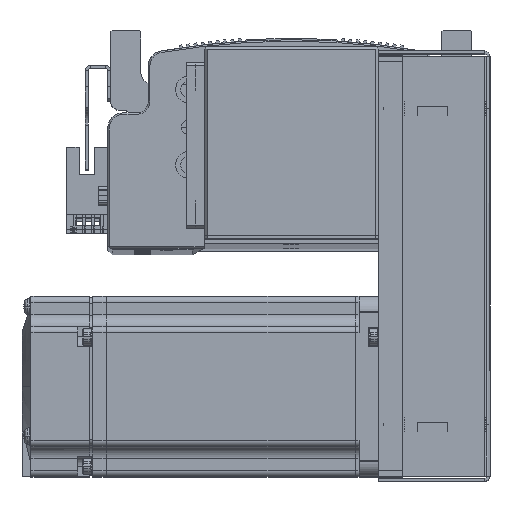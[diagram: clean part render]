
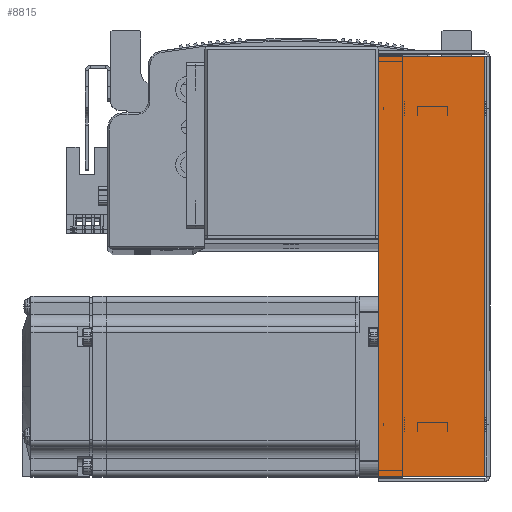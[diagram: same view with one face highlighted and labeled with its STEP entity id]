
A CAD part, top view. The second image highlights one B-rep face of the part: STEP entity #8815.
In plain terms, the highlighted planar face has unit normal (0, 0, 1).
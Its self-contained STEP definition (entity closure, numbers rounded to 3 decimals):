
#8815 = ADVANCED_FACE ( 'NONE', ( #68147 ), #87129, .F. ) ;
#11126 = EDGE_CURVE ( 'NONE', #35728, #35714, #21386, .T. ) ;
#11187 = EDGE_CURVE ( 'NONE', #35678, #35758, #21542, .T. ) ;
#11204 = EDGE_CURVE ( 'NONE', #35678, #35728, #21448, .T. ) ;
#11206 = EDGE_CURVE ( 'NONE', #35758, #35714, #21626, .T. ) ;
#18026 = ORIENTED_EDGE ( 'NONE', *, *, #11126, .F. ) ;
#18031 = ORIENTED_EDGE ( 'NONE', *, *, #11206, .T. ) ;
#18040 = ORIENTED_EDGE ( 'NONE', *, *, #11187, .T. ) ;
#18056 = ORIENTED_EDGE ( 'NONE', *, *, #11204, .F. ) ;
#21306 = VECTOR ( 'NONE', #80266, 1000. ) ;
#21386 = LINE ( 'NONE', #80246, #21306 ) ;
#21448 = LINE ( 'NONE', #80375, #21701 ) ;
#21542 = LINE ( 'NONE', #80344, #21545 ) ;
#21545 = VECTOR ( 'NONE', #80339, 1000. ) ;
#21626 = LINE ( 'NONE', #80371, #21686 ) ;
#21686 = VECTOR ( 'NONE', #80357, 1000. ) ;
#21701 = VECTOR ( 'NONE', #80364, 1000. ) ;
#35678 = VERTEX_POINT ( 'NONE', #90754 ) ;
#35714 = VERTEX_POINT ( 'NONE', #90814 ) ;
#35728 = VERTEX_POINT ( 'NONE', #90843 ) ;
#35758 = VERTEX_POINT ( 'NONE', #90876 ) ;
#56712 = AXIS2_PLACEMENT_3D ( 'NONE', #87100, #87158, #87135 ) ;
#68147 = FACE_OUTER_BOUND ( 'NONE', #73482, .T. ) ;
#73482 = EDGE_LOOP ( 'NONE', ( #18056, #18040, #18031, #18026 ) ) ;
#80246 = CARTESIAN_POINT ( 'NONE',  ( -69.793, 0., 33.5 ) ) ;
#80266 = DIRECTION ( 'NONE',  ( 0., 1., 0. ) ) ;
#80339 = DIRECTION ( 'NONE',  ( 0., 1., 0. ) ) ;
#80344 = CARTESIAN_POINT ( 'NONE',  ( 69.793, 0., 33.5 ) ) ;
#80357 = DIRECTION ( 'NONE',  ( -1., 0., 0. ) ) ;
#80364 = DIRECTION ( 'NONE',  ( -1., 0., 0. ) ) ;
#80371 = CARTESIAN_POINT ( 'NONE',  ( 0., 36., 33.5 ) ) ;
#80375 = CARTESIAN_POINT ( 'NONE',  ( -71.5, 0.737, 33.5 ) ) ;
#87100 = CARTESIAN_POINT ( 'NONE',  ( 0., 0., 33.5 ) ) ;
#87129 = PLANE ( 'NONE',  #56712 ) ;
#87135 = DIRECTION ( 'NONE',  ( -1., 0., 0. ) ) ;
#87158 = DIRECTION ( 'NONE',  ( 0., 0., -1. ) ) ;
#90754 = CARTESIAN_POINT ( 'NONE',  ( 69.793, 0.737, 33.5 ) ) ;
#90814 = CARTESIAN_POINT ( 'NONE',  ( -69.793, 36., 33.5 ) ) ;
#90843 = CARTESIAN_POINT ( 'NONE',  ( -69.793, 0.737, 33.5 ) ) ;
#90876 = CARTESIAN_POINT ( 'NONE',  ( 69.793, 36., 33.5 ) ) ;
